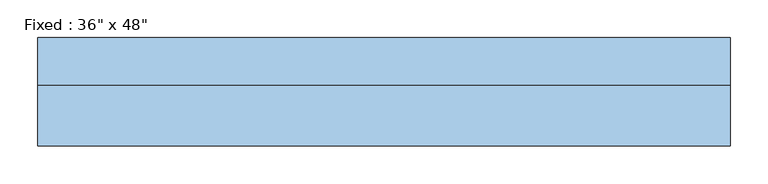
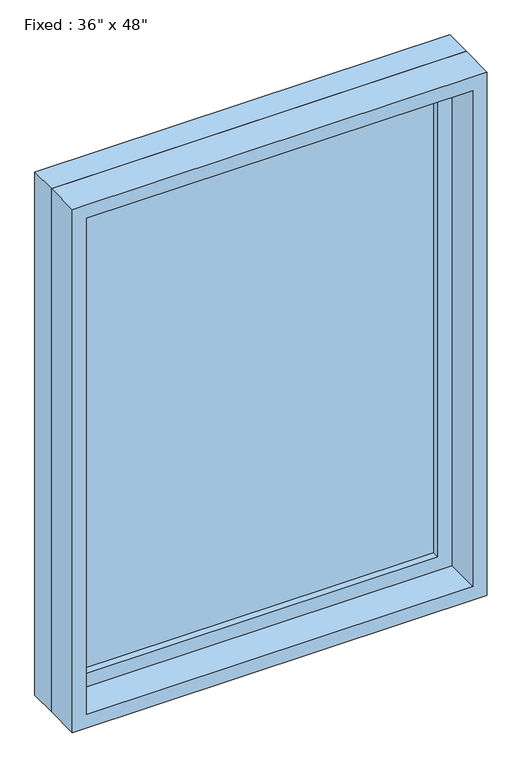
"""IFC4 building model written with IfcOpenShell, lengths in millimetres: window geometry."""

from ifc_helpers import new_model, si_unit, frame, origin, place, context, project, spatial, polyline, outline, extrude, source, transform, mapped, element, save


def window_51b933d5(model_context):
    return source(origin(), model_context, "Body", "SweptSolid", [
        extrude(outline(polyline([(355.6, 23.8125), (-431.8, 23.8125), (-431.8, 36.5125), (355.6, 36.5125), (355.6, 23.8125)])), frame((0.0, 0.0, 977.9), z_axis=(0.0, 0.0, 1.0), x_axis=(1.0, 0.0, 0.0)), (0.0, 0.0, 1.0), 1092.2),
        extrude(outline(polyline([(2114.55, -476.25), (933.45, -476.25), (933.45, 400.05), (2114.55, 400.05), (2114.55, -476.25)]), holes=[polyline([(2070.1, -431.8), (2070.1, 355.6), (977.9, 355.6), (977.9, -431.8), (2070.1, -431.8)])]), frame((0.0, 7.9375, 0.0), z_axis=(0.0, 1.0, 0.0), x_axis=(0.0, 0.0, 1.0)), (0.0, 0.0, 1.0), 44.45),
        extrude(outline(polyline([(2133.6, -495.3), (914.4, -495.3), (914.4, 419.1), (2133.6, 419.1), (2133.6, -495.3)]), holes=[polyline([(2101.85, -463.55), (2101.85, 387.35), (946.15, 387.35), (946.15, -463.55), (2101.85, -463.55)])]), frame((0.0, -71.4375, 0.0), z_axis=(0.0, 1.0, 0.0), x_axis=(0.0, 0.0, 1.0)), (0.0, 0.0, 1.0), 79.375),
        extrude(outline(polyline([(2133.6, 419.1), (2133.6, -495.3), (914.4, -495.3), (914.4, 419.1), (2133.6, 419.1)]), holes=[polyline([(2114.55, 400.05), (933.45, 400.05), (933.45, -476.25), (2114.55, -476.25), (2114.55, 400.05)])]), frame((0.0, 7.9375, 0.0), z_axis=(0.0, 1.0, 0.0), x_axis=(0.0, 0.0, 1.0)), (0.0, 0.0, 1.0), 63.5),
    ])


if __name__ == "__main__":
    model = new_model("IFC4")
    model_context = context("Model", 3, world=origin())
    ifc_project = project(units=[si_unit("LENGTHUNIT", "METRE", prefix="MILLI")], contexts=[model_context])
    site = spatial("IfcSite", under=ifc_project)
    building = spatial("IfcBuilding", under=site)
    placement = place(None, origin())
    window_shape = window_51b933d5(model_context)
    element("IfcWindow", 1, ObjectType="Fixed : 36\" x 48\"", at=placement, inside=building, context=model_context, shape_type="MappedRepresentation", body=[
        mapped(window_shape, transform((0.0, 0.0, 0.0), x_axis=(1.0, 0.0, 0.0), y_axis=(0.0, 1.0, 0.0), z_axis=(0.0, 0.0, 1.0))),
    ])
    save(model, "model.ifc")
